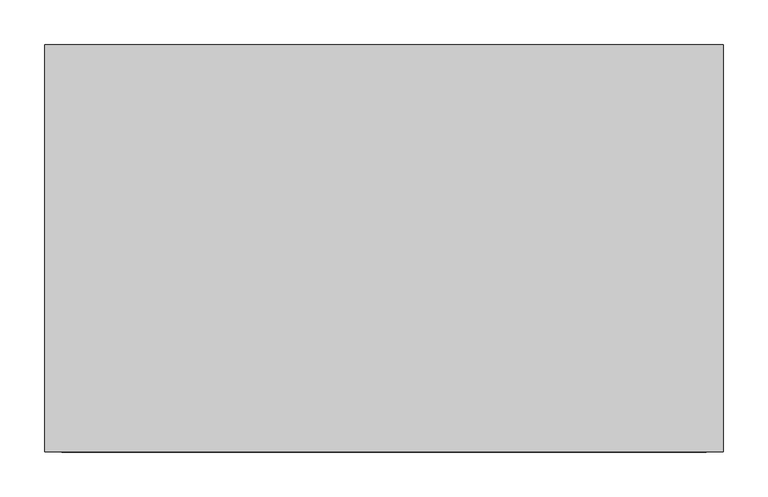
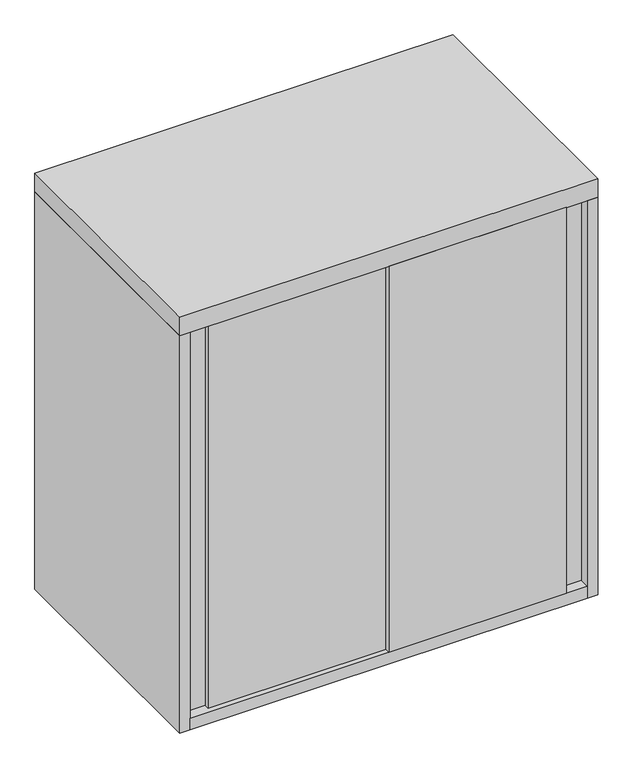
"""IFC4 building model written with IfcOpenShell, lengths in millimetres: furniture geometry, Steelcase - 900 Series - Storage - Overfile Cabinet - Flush Steel : With Sliding Door - 30W x 31 1/2H."""

import ifcopenshell
import ifcopenshell.guid

model = None  # the IFC model being written
_history = None  # IfcOwnerHistory: only IFC2X3 demands one
_inside = {}  # id of a spatial element -> (the spatial element, [elements in it])
_under = {}  # id of a project, library or spatial element -> (it, [spatial elements below it])
_declared = {}  # id of a project -> (the project, [libraries it declares])
_typed = {}  # id of a type object -> (the type object, [elements of that type])
_made_of = {}  # id of a material, layer set ... -> (it, [elements and type objects made of it])


def new_model(schema):
    """Start an empty IFC model of exactly this schema.

    Asked for "IFC4X3", IfcOpenShell would pick the latest addendum, in which some entities
    have other attributes; the version numbers below select the first issue.
    IFC2X3 requires an IfcOwnerHistory on every rooted entity: one is made here for all.
    """
    global model, _history
    if schema == "IFC4X3":
        model = ifcopenshell.file(schema_version=(4, 3, 0, 0))
    else:
        model = ifcopenshell.file(schema=schema)
    _inside.clear()
    _under.clear()
    _declared.clear()
    _typed.clear()
    _made_of.clear()
    _history = None
    if model.schema == "IFC2X3":
        org = make("IfcOrganization", Name="unknown")
        user = make(
            "IfcPersonAndOrganization",
            ThePerson=make("IfcPerson", FamilyName="unknown"),
            TheOrganization=org,
        )
        app = make(
            "IfcApplication",
            ApplicationDeveloper=org,
            Version="unknown",
            ApplicationFullName="unknown",
            ApplicationIdentifier="unknown",
        )
        _history = make(
            "IfcOwnerHistory",
            OwningUser=user,
            OwningApplication=app,
            ChangeAction="ADDED",
            CreationDate=0,
        )
    return model


def make(cls, **values):
    """One entity of the class cls with the attributes given. An attribute that is None is left unset."""
    return model.create_entity(
        cls, **{name: value for name, value in values.items() if value is not None}
    )


def rooted(cls, **values):
    """An entity with a GlobalId (a new one), such as an element, a storey or a relation."""
    return make(cls, GlobalId=ifcopenshell.guid.new(), OwnerHistory=_history, **values)


def si_unit(unit_type, name, prefix=None):
    """IfcSIUnit, for example si_unit("LENGTHUNIT", "METRE", prefix="MILLI")."""
    return make("IfcSIUnit", UnitType=unit_type, Prefix=prefix, Name=name)


def assignment(units):
    """IfcUnitAssignment: the units of a project."""
    return None if units is None else make("IfcUnitAssignment", Units=units)


def point(xyz):
    """IfcCartesianPoint."""
    return None if xyz is None else make("IfcCartesianPoint", Coordinates=xyz)


def direction(xyz):
    """IfcDirection."""
    return None if xyz is None else make("IfcDirection", DirectionRatios=xyz)


def frame(location, z_axis=None, x_axis=None):
    """IfcAxis2Placement3D, a coordinate frame: its origin and axes. An axis left out is left unset."""
    return make(
        "IfcAxis2Placement3D",
        Location=point(location),
        Axis=direction(z_axis),
        RefDirection=direction(x_axis),
    )


def origin():
    """The frame at (0, 0, 0) with its axes left unset."""
    return frame((0.0, 0.0, 0.0))


def place(relative_to, where):
    """IfcLocalPlacement: puts the frame where relative to a parent placement (None: the world)."""
    return make(
        "IfcLocalPlacement", PlacementRelTo=relative_to, RelativePlacement=where
    )


def context(
    kind, dimensions, precision=None, world=None, true_north=None, identifier=None
):
    """IfcGeometricRepresentationContext, for example the 3D "Model" context."""
    return make(
        "IfcGeometricRepresentationContext",
        ContextIdentifier=identifier,
        ContextType=kind,
        CoordinateSpaceDimension=dimensions,
        Precision=precision,
        WorldCoordinateSystem=world,
        TrueNorth=true_north,
    )


def project(units=None, contexts=None):
    """IfcProject with its units and contexts."""
    return rooted(
        "IfcProject",
        Name="project",
        RepresentationContexts=contexts,
        UnitsInContext=assignment(units),
    )


def spatial(cls, under=None, at=None, **own):
    """A site, building, storey or space (cls), placed at a placement, below another one or the project."""
    s = rooted(cls, ObjectPlacement=at, **own)
    if under is not None:
        _under.setdefault(under.id(), (under, []))[1].append(s)
    return s


def polyline(points):
    """IfcPolyline through the points."""
    return make("IfcPolyline", Points=[point(p) for p in points])


def outline(outer, holes=None, kind="AREA"):
    """IfcArbitraryClosedProfileDef: a profile drawn as a closed curve; with holes, ...WithVoids."""
    if holes is None:
        return make("IfcArbitraryClosedProfileDef", ProfileType=kind, OuterCurve=outer)
    return make(
        "IfcArbitraryProfileDefWithVoids",
        ProfileType=kind,
        OuterCurve=outer,
        InnerCurves=holes,
    )


def extrude(swept, where, along, depth):
    """IfcExtrudedAreaSolid: the profile swept, set in the frame where, extruded along a direction by depth."""
    return make(
        "IfcExtrudedAreaSolid",
        SweptArea=swept,
        Position=where,
        ExtrudedDirection=direction(along),
        Depth=depth,
    )


def shape(context_of_items, identifier, shape_type, items):
    """IfcShapeRepresentation: the items that make up one representation, for example the "Body"."""
    return make(
        "IfcShapeRepresentation",
        ContextOfItems=context_of_items,
        RepresentationIdentifier=identifier,
        RepresentationType=shape_type,
        Items=items,
    )


def source(mapping_origin, context_of_items, identifier, shape_type, items):
    """IfcRepresentationMap: a shape defined once, which mapped items show again and again."""
    return make(
        "IfcRepresentationMap",
        MappingOrigin=mapping_origin,
        MappedRepresentation=shape(context_of_items, identifier, shape_type, items),
    )


def transform(
    local_origin,
    x_axis=None,
    y_axis=None,
    z_axis=None,
    scale=None,
    scale2=None,
    scale3=None,
    uniform=True,
):
    """IfcCartesianTransformationOperator3D, or its non-uniform kind. x_axis, y_axis, z_axis: its Axis1, 2, 3."""
    if uniform:
        return make(
            "IfcCartesianTransformationOperator3D",
            Axis1=direction(x_axis),
            Axis2=direction(y_axis),
            LocalOrigin=point(local_origin),
            Scale=scale,
            Axis3=direction(z_axis),
        )
    return make(
        "IfcCartesianTransformationOperator3DnonUniform",
        Axis1=direction(x_axis),
        Axis2=direction(y_axis),
        LocalOrigin=point(local_origin),
        Scale=scale,
        Axis3=direction(z_axis),
        Scale2=scale2,
        Scale3=scale3,
    )


def mapped(mapping_source, mapping_target):
    """IfcMappedItem: shows the shape of a source again, moved by a transform."""
    return make(
        "IfcMappedItem", MappingSource=mapping_source, MappingTarget=mapping_target
    )


def made_of(thing, what):
    """Note that an element or type object is made of a material, layer set ...; save() writes the relation."""
    if what is not None:
        _made_of.setdefault(what.id(), (what, []))[1].append(thing)
    return thing


def element(
    cls,
    number,
    at=None,
    inside=None,
    cuts=None,
    type_object=None,
    material=None,
    context=None,
    identifier="Body",
    shape_type=None,
    held_by="IfcProductDefinitionShape",
    body=None,
    shapes=None,
    **own,
):
    """One element of the class cls, such as IfcWall. Its Tag is "e" and its number.

    at: its placement. inside: the storey or other place that contains it. cuts: it is an
    opening in that element (IfcRelVoidsElement). A single representation is given by context,
    identifier, shape_type and body (its items); several are given by shapes. held_by: the class
    of the entity that holds the representations. save() writes the other relations.
    """
    e = rooted(cls, Tag="e%d" % number, ObjectPlacement=at, **own)
    if body is not None:
        shapes = [shape(context, identifier, shape_type, body)]
    if shapes is not None:
        e.Representation = make(held_by, Representations=shapes)
    if inside is not None:
        _inside.setdefault(inside.id(), (inside, []))[1].append(e)
    if cuts is not None:
        rooted(
            "IfcRelVoidsElement", RelatingBuildingElement=cuts, RelatedOpeningElement=e
        )
    if type_object is not None:
        _typed.setdefault(type_object.id(), (type_object, []))[1].append(e)
    return made_of(e, material)


def aggregate(whole, parts):
    """IfcRelAggregates: a whole, such as a stair, and the parts it consists of."""
    return rooted("IfcRelAggregates", RelatingObject=whole, RelatedObjects=parts)


def save(model, path):
    """Write the relations noted so far, then the file.

    IfcRelAggregates (storeys below a building ...), IfcRelContainedInSpatialStructure (elements
    in a storey), IfcRelDefinesByType, IfcRelAssociatesMaterial and IfcRelDeclares: one each for
    every whole, place, type object, material and project.
    """
    for whole, parts in _under.values():
        aggregate(whole, parts)
    for where, things in _inside.values():
        rooted(
            "IfcRelContainedInSpatialStructure",
            RelatedElements=things,
            RelatingStructure=where,
        )
    for kind, things in _typed.values():
        rooted("IfcRelDefinesByType", RelatedObjects=things, RelatingType=kind)
    for what, things in _made_of.values():
        rooted("IfcRelAssociatesMaterial", RelatedObjects=things, RelatingMaterial=what)
    for by, libraries in _declared.values():
        rooted("IfcRelDeclares", RelatingContext=by, RelatedDefinitions=libraries)
    model.write(path)


def furniture_16d887bc(model_context):
    return source(origin(), model_context, "Body", "SweptSolid", [
        extrude(outline(polyline([(381.0, -457.2), (381.0, -431.8), (742.6960184, -431.8), (742.6960184, -438.15), (704.5960184, -438.15), (704.5960184, -457.2), (381.0, -457.2)])), frame((0.0, 0.0, 1268.6029516), z_axis=(0.0, 0.0, 1.0), x_axis=(1.0, 0.0, 0.0)), (0.0, 0.0, 1.0), 742.95),
        extrude(outline(polyline([(19.3039998, -431.8), (381.0, -431.8), (381.0, -447.675), (57.1499992, -447.675), (57.1499992, -438.15), (19.3039998, -438.15), (19.3039998, -431.8)])), frame((0.0, 0.0, 1268.6029516), z_axis=(0.0, 0.0, 1.0), x_axis=(1.0, 0.0, 0.0)), (0.0, 0.0, 1.0), 742.95),
        extrude(outline(polyline([(742.6960184, -6.3500002), (742.6960184, -457.2), (19.3039998, -457.2), (19.3039998, -6.3500002), (742.6960184, -6.3500002)])), frame((0.0, 0.0, 1246.378), z_axis=(0.0, 0.0, 1.0), x_axis=(1.0, 0.0, 0.0)), (0.0, 0.0, 1.0), 22.2249516),
        extrude(outline(polyline([(762.0, 0.0), (762.0, -457.2), (0.0, -457.2), (0.0, 0.0), (762.0, 0.0)])), frame((0.0, 0.0, 2011.5529516), z_axis=(0.0, 0.0, 1.0), x_axis=(1.0, 0.0, 0.0)), (0.0, 0.0, 1.0), 34.9250484),
        extrude(outline(polyline([(742.6960184, -6.3500002), (19.3039998, -6.3500002), (19.3039998, -457.2), (0.0, -457.2), (0.0, 0.0), (762.0, 0.0), (762.0, -457.2), (742.6960184, -457.2), (742.6960184, -6.3500002)])), frame((0.0, 0.0, 1246.378), z_axis=(0.0, 0.0, 1.0), x_axis=(1.0, 0.0, 0.0)), (0.0, 0.0, 1.0), 765.1749516),
    ])


if __name__ == "__main__":
    model = new_model("IFC4")
    model_context = context("Model", 3, world=origin())
    ifc_project = project(units=[si_unit("LENGTHUNIT", "METRE", prefix="MILLI")], contexts=[model_context])
    site = spatial("IfcSite", under=ifc_project)
    building = spatial("IfcBuilding", under=site)
    placement = place(None, origin())
    furniture_shape = furniture_16d887bc(model_context)
    element("IfcFurniture", 1, ObjectType="Steelcase - 900 Series - Storage - Overfile Cabinet - Flush Steel : With Sliding Door - 30W x 31 1/2H", at=placement, inside=building, context=model_context, shape_type="MappedRepresentation", body=[
        mapped(furniture_shape, transform((0.0, 0.0, 0.0), x_axis=(1.0, 0.0, 0.0), y_axis=(0.0, 1.0, 0.0), z_axis=(0.0, 0.0, 1.0))),
    ])
    save(model, "model.ifc")
